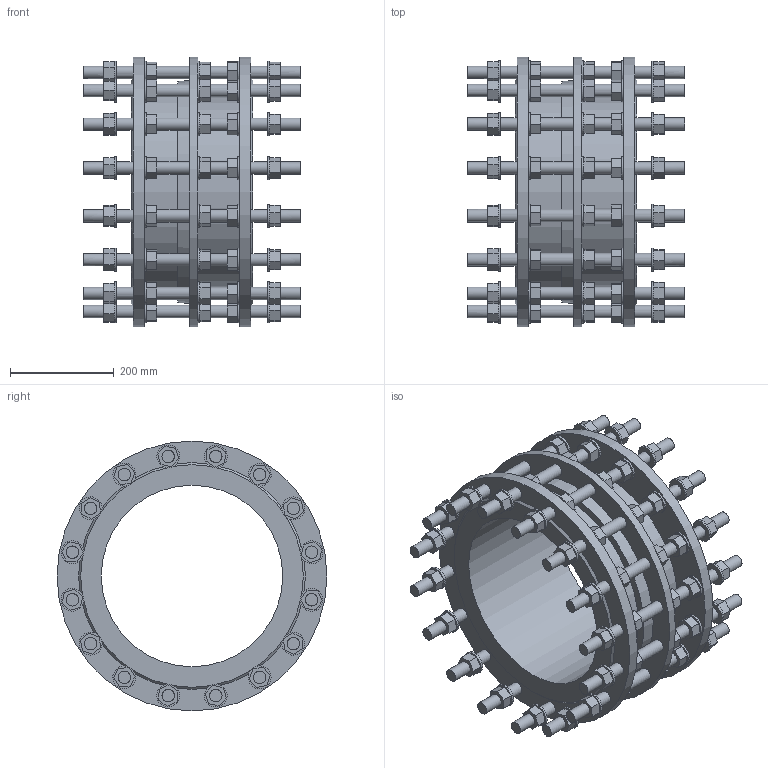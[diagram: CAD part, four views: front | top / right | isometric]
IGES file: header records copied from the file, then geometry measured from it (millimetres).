
Start section: SolidWorks IGES file using analytic representation for surfaces
Global section: file name: \\avksan2\techshare\PBM outline export from Enovia\O_265_910_DN350_1XXXXX00_L=235_REV01.igs; native system: SolidWorks 2022; preprocessor: SolidWorks 2022; author: pbm; date: 241011.111136; units: millimetre
Bounding box: 420 x 520 x 520 mm (x, y, z)
Surface area: 1760080.8 mm2 (no closed solid volume)
Topology: 0 solids, 0 shells, 939 faces, 4122 edges, 3937 vertices
Faces by surface type: bspline 752, revolution 187
